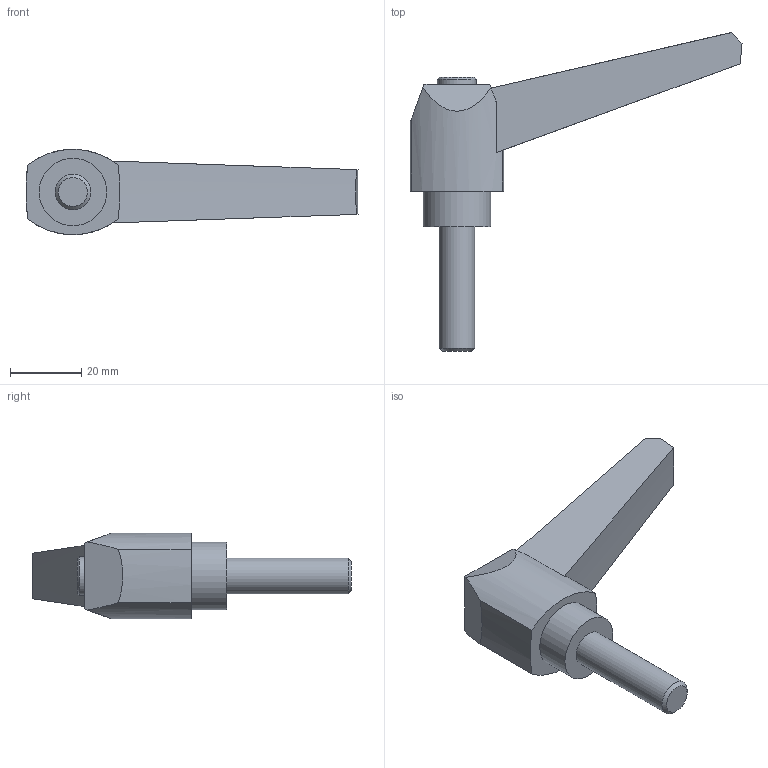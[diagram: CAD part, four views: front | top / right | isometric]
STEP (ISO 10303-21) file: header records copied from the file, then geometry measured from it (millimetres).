
FILE_DESCRIPTION( ( 'STEP AP203' ), '1' );
FILE_NAME( 'C:/Temp/Ganter_Step_05_03_2020/data/2_1/gn_500/gn_500_ms/Adjustable hand lever GN 500-80-M10-35-SW.stp', '2020-03-05T11:26:36', ( 'License CC BY-ND 4.0' ), ( 'CADENAS' ), ' ', 'PARTsolutions', ' ' );
FILE_SCHEMA( ( 'CONFIG_CONTROL_DESIGN' ) );
Length unit declared in the file: millimetre
Products named in the file (1): _Adjustable hand lever GN 500-80-M10-35-SW
Bounding box: 93.3 x 89.58 x 24 mm (x, y, z)
Volume: 35489.6 mm3; surface area: 8981.5 mm2
Topology: 1 solids, 1 shells, 24 faces, 56 edges, 37 vertices
Faces by surface type: plane 11, cylinder 7, cone 6
Full cylindrical faces by diameter (mm): 10 x1, 11 x1, 19 x1
Entity records: 709 total; most frequent: CARTESIAN_POINT 124, DIRECTION 118, ORIENTED_EDGE 100, EDGE_CURVE 50, AXIS2_PLACEMENT_3D 47, VERTEX_POINT 36, EDGE_LOOP 32, FACE_OUTER_BOUND 27
